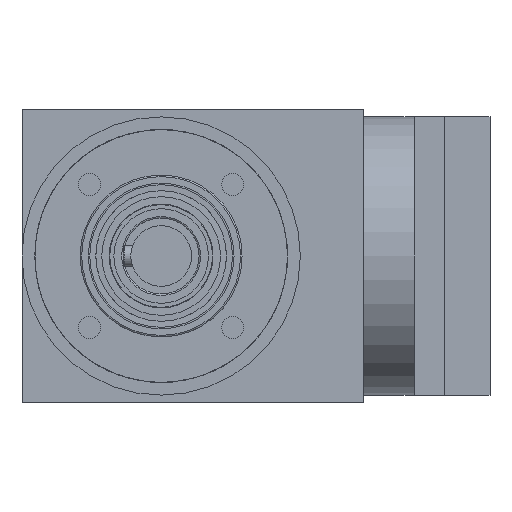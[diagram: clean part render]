
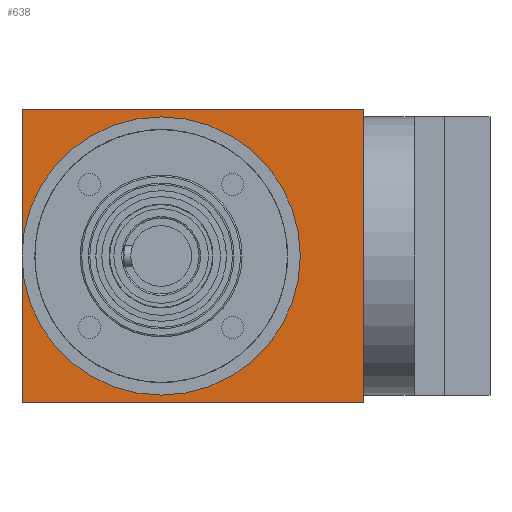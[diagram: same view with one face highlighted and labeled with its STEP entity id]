
A CAD part, left-side view. The second image highlights one B-rep face of the part: STEP entity #638.
In plain terms, the highlighted planar face has unit normal (-1, 0, 0).
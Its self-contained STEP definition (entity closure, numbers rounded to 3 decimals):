
#638=ADVANCED_FACE('',(#907),#822,.T.);
#822=PLANE('',#2833);
#907=FACE_OUTER_BOUND('',#984,.T.);
#984=EDGE_LOOP('',(#1307,#1308,#1309,#1310));
#1307=ORIENTED_EDGE('',*,*,#2205,.T.);
#1308=ORIENTED_EDGE('',*,*,#2203,.T.);
#1309=ORIENTED_EDGE('',*,*,#2195,.T.);
#1310=ORIENTED_EDGE('',*,*,#2198,.F.);
#1941=VERTEX_POINT('',#4047);
#1943=VERTEX_POINT('',#4050);
#1945=VERTEX_POINT('',#4056);
#1948=VERTEX_POINT('',#4066);
#2195=EDGE_CURVE('',#1943,#1941,#2522,.T.);
#2198=EDGE_CURVE('',#1945,#1941,#2525,.T.);
#2203=EDGE_CURVE('',#1948,#1943,#2530,.T.);
#2205=EDGE_CURVE('',#1945,#1948,#2532,.T.);
#2522=LINE('',#4049,#2675);
#2525=LINE('',#4055,#2678);
#2530=LINE('',#4065,#2683);
#2532=LINE('',#4069,#2685);
#2675=VECTOR('',#3185,1.);
#2678=VECTOR('',#3190,1.);
#2683=VECTOR('',#3199,1.);
#2685=VECTOR('',#3203,1.);
#2833=AXIS2_PLACEMENT_3D('',#4071,#3206,#3207);
#3185=DIRECTION('',(0.,0.,1.));
#3190=DIRECTION('',(0.,-1.,0.));
#3199=DIRECTION('',(0.,-1.,0.));
#3203=DIRECTION('',(0.,0.,-1.));
#3206=DIRECTION('',(-1.,0.,0.));
#3207=DIRECTION('',(0.,1.,0.));
#4047=CARTESIAN_POINT('',(0.,-40.,29.));
#4049=CARTESIAN_POINT('',(0.,-40.,0.));
#4050=CARTESIAN_POINT('',(0.,-40.,-29.));
#4055=CARTESIAN_POINT('',(0.,27.5,29.));
#4056=CARTESIAN_POINT('',(0.,27.5,29.));
#4065=CARTESIAN_POINT('',(0.,27.5,-29.));
#4066=CARTESIAN_POINT('',(0.,27.5,-29.));
#4069=CARTESIAN_POINT('',(0.,27.5,0.));
#4071=CARTESIAN_POINT('',(0.,27.5,0.));
